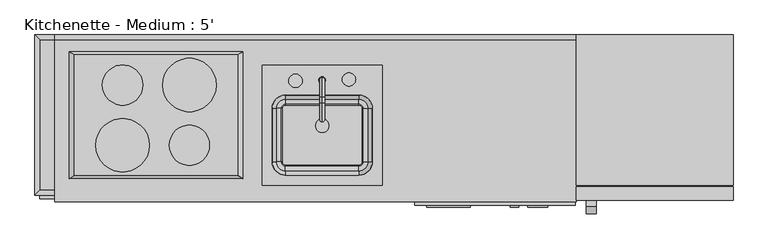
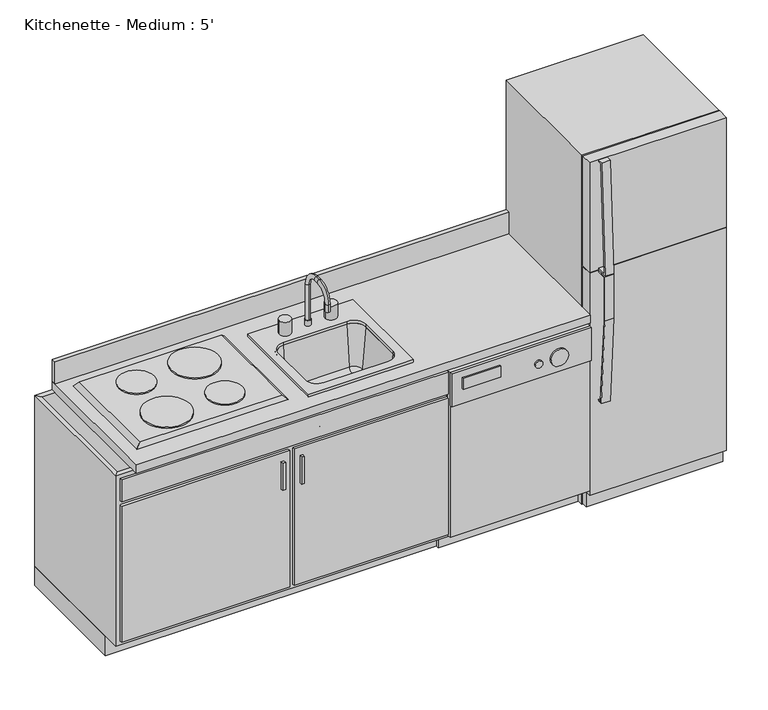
"""IFC4 building model written with IfcOpenShell, lengths in millimetres: proxy geometry, Kitchenette - Medium : 5'."""

import ifcopenshell
import ifcopenshell.guid

model = None  # the IFC model being written
_history = None  # IfcOwnerHistory: only IFC2X3 demands one
_inside = {}  # id of a spatial element -> (the spatial element, [elements in it])
_under = {}  # id of a project, library or spatial element -> (it, [spatial elements below it])
_declared = {}  # id of a project -> (the project, [libraries it declares])
_typed = {}  # id of a type object -> (the type object, [elements of that type])
_made_of = {}  # id of a material, layer set ... -> (it, [elements and type objects made of it])


def new_model(schema):
    """Start an empty IFC model of exactly this schema.

    Asked for "IFC4X3", IfcOpenShell would pick the latest addendum, in which some entities
    have other attributes; the version numbers below select the first issue.
    IFC2X3 requires an IfcOwnerHistory on every rooted entity: one is made here for all.
    """
    global model, _history
    if schema == "IFC4X3":
        model = ifcopenshell.file(schema_version=(4, 3, 0, 0))
    else:
        model = ifcopenshell.file(schema=schema)
    _inside.clear()
    _under.clear()
    _declared.clear()
    _typed.clear()
    _made_of.clear()
    _history = None
    if model.schema == "IFC2X3":
        org = make("IfcOrganization", Name="unknown")
        user = make(
            "IfcPersonAndOrganization",
            ThePerson=make("IfcPerson", FamilyName="unknown"),
            TheOrganization=org,
        )
        app = make(
            "IfcApplication",
            ApplicationDeveloper=org,
            Version="unknown",
            ApplicationFullName="unknown",
            ApplicationIdentifier="unknown",
        )
        _history = make(
            "IfcOwnerHistory",
            OwningUser=user,
            OwningApplication=app,
            ChangeAction="ADDED",
            CreationDate=0,
        )
    return model


def make(cls, **values):
    """One entity of the class cls with the attributes given. An attribute that is None is left unset."""
    return model.create_entity(
        cls, **{name: value for name, value in values.items() if value is not None}
    )


def rooted(cls, **values):
    """An entity with a GlobalId (a new one), such as an element, a storey or a relation."""
    return make(cls, GlobalId=ifcopenshell.guid.new(), OwnerHistory=_history, **values)


def si_unit(unit_type, name, prefix=None):
    """IfcSIUnit, for example si_unit("LENGTHUNIT", "METRE", prefix="MILLI")."""
    return make("IfcSIUnit", UnitType=unit_type, Prefix=prefix, Name=name)


def assignment(units):
    """IfcUnitAssignment: the units of a project."""
    return None if units is None else make("IfcUnitAssignment", Units=units)


def point(xyz):
    """IfcCartesianPoint."""
    return None if xyz is None else make("IfcCartesianPoint", Coordinates=xyz)


def direction(xyz):
    """IfcDirection."""
    return None if xyz is None else make("IfcDirection", DirectionRatios=xyz)


def frame(location, z_axis=None, x_axis=None):
    """IfcAxis2Placement3D, a coordinate frame: its origin and axes. An axis left out is left unset."""
    return make(
        "IfcAxis2Placement3D",
        Location=point(location),
        Axis=direction(z_axis),
        RefDirection=direction(x_axis),
    )


def frame_2d(location, x_axis=None):
    """IfcAxis2Placement2D, a coordinate frame in the plane: its origin and x axis."""
    return make(
        "IfcAxis2Placement2D", Location=point(location), RefDirection=direction(x_axis)
    )


def origin():
    """The frame at (0, 0, 0) with its axes left unset."""
    return frame((0.0, 0.0, 0.0))


def origin_with_axes():
    """The frame at (0, 0, 0) with the z axis (0, 0, 1) and the x axis (1, 0, 0) written out."""
    return frame((0.0, 0.0, 0.0), z_axis=(0.0, 0.0, 1.0), x_axis=(1.0, 0.0, 0.0))


def place(relative_to, where):
    """IfcLocalPlacement: puts the frame where relative to a parent placement (None: the world)."""
    return make(
        "IfcLocalPlacement", PlacementRelTo=relative_to, RelativePlacement=where
    )


def context(
    kind, dimensions, precision=None, world=None, true_north=None, identifier=None
):
    """IfcGeometricRepresentationContext, for example the 3D "Model" context."""
    return make(
        "IfcGeometricRepresentationContext",
        ContextIdentifier=identifier,
        ContextType=kind,
        CoordinateSpaceDimension=dimensions,
        Precision=precision,
        WorldCoordinateSystem=world,
        TrueNorth=true_north,
    )


def project(units=None, contexts=None):
    """IfcProject with its units and contexts."""
    return rooted(
        "IfcProject",
        Name="project",
        RepresentationContexts=contexts,
        UnitsInContext=assignment(units),
    )


def spatial(cls, under=None, at=None, **own):
    """A site, building, storey or space (cls), placed at a placement, below another one or the project."""
    s = rooted(cls, ObjectPlacement=at, **own)
    if under is not None:
        _under.setdefault(under.id(), (under, []))[1].append(s)
    return s


def polyline(points):
    """IfcPolyline through the points."""
    return make("IfcPolyline", Points=[point(p) for p in points])


def circle_curve(where, radius):
    """IfcCircle in the frame where."""
    return make("IfcCircle", Position=where, Radius=radius)


def ellipse_curve(where, semi_axis1, semi_axis2):
    """IfcEllipse in the frame where."""
    return make(
        "IfcEllipse", Position=where, SemiAxis1=semi_axis1, SemiAxis2=semi_axis2
    )


def trimmed(basis, trim1, trim2, sense, master):
    """IfcTrimmedCurve: the piece of a basis curve between two trims."""
    return make(
        "IfcTrimmedCurve",
        BasisCurve=basis,
        Trim1=trim1,
        Trim2=trim2,
        SenseAgreement=sense,
        MasterRepresentation=master,
    )


def segment(curve, same_sense, transition):
    """IfcCompositeCurveSegment."""
    return make(
        "IfcCompositeCurveSegment",
        Transition=transition,
        SameSense=same_sense,
        ParentCurve=curve,
    )


def composite_curve(segments, self_intersect=None):
    """IfcCompositeCurve: segments joined end to end."""
    return make("IfcCompositeCurve", Segments=segments, SelfIntersect=self_intersect)


def outline(outer, holes=None, kind="AREA"):
    """IfcArbitraryClosedProfileDef: a profile drawn as a closed curve; with holes, ...WithVoids."""
    if holes is None:
        return make("IfcArbitraryClosedProfileDef", ProfileType=kind, OuterCurve=outer)
    return make(
        "IfcArbitraryProfileDefWithVoids",
        ProfileType=kind,
        OuterCurve=outer,
        InnerCurves=holes,
    )


def extrude(swept, where, along, depth):
    """IfcExtrudedAreaSolid: the profile swept, set in the frame where, extruded along a direction by depth."""
    return make(
        "IfcExtrudedAreaSolid",
        SweptArea=swept,
        Position=where,
        ExtrudedDirection=direction(along),
        Depth=depth,
    )


def faces_of(points, faces, orient=None, outer=None):
    """IfcFace entities. A face is a list of loops; a loop is a list of indices into points, from 0.

    orient and outer hold one flag for each loop. By default every Orientation is true, the
    first loop of a face is its IfcFaceOuterBound and the others are IfcFaceBound.
    """
    made = []
    for i, loops in enumerate(faces):
        bounds = []
        for j, loop in enumerate(loops):
            is_outer = j == 0 if outer is None else outer[i][j]
            bounds.append(
                make(
                    "IfcFaceOuterBound" if is_outer else "IfcFaceBound",
                    Bound=make("IfcPolyLoop", Polygon=[points[k] for k in loop]),
                    Orientation=True if orient is None else orient[i][j],
                )
            )
        made.append(make("IfcFace", Bounds=bounds))
    return made


def faceted_brep(points, faces, orient=None, outer=None, voids=None):
    """IfcFacetedBrep: a solid bounded by flat faces; with voids (closed shells), ...WithVoids."""
    shared = [point(p) for p in points]
    hull = make("IfcClosedShell", CfsFaces=faces_of(shared, faces, orient, outer))
    if voids is None:
        return make("IfcFacetedBrep", Outer=hull)
    return make(
        "IfcFacetedBrepWithVoids",
        Outer=hull,
        Voids=[
            make(cls, CfsFaces=faces_of(shared, fs, o, b)) for cls, fs, o, b in voids
        ],
    )


def shape(context_of_items, identifier, shape_type, items):
    """IfcShapeRepresentation: the items that make up one representation, for example the "Body"."""
    return make(
        "IfcShapeRepresentation",
        ContextOfItems=context_of_items,
        RepresentationIdentifier=identifier,
        RepresentationType=shape_type,
        Items=items,
    )


def source(mapping_origin, context_of_items, identifier, shape_type, items):
    """IfcRepresentationMap: a shape defined once, which mapped items show again and again."""
    return make(
        "IfcRepresentationMap",
        MappingOrigin=mapping_origin,
        MappedRepresentation=shape(context_of_items, identifier, shape_type, items),
    )


def transform(
    local_origin,
    x_axis=None,
    y_axis=None,
    z_axis=None,
    scale=None,
    scale2=None,
    scale3=None,
    uniform=True,
):
    """IfcCartesianTransformationOperator3D, or its non-uniform kind. x_axis, y_axis, z_axis: its Axis1, 2, 3."""
    if uniform:
        return make(
            "IfcCartesianTransformationOperator3D",
            Axis1=direction(x_axis),
            Axis2=direction(y_axis),
            LocalOrigin=point(local_origin),
            Scale=scale,
            Axis3=direction(z_axis),
        )
    return make(
        "IfcCartesianTransformationOperator3DnonUniform",
        Axis1=direction(x_axis),
        Axis2=direction(y_axis),
        LocalOrigin=point(local_origin),
        Scale=scale,
        Axis3=direction(z_axis),
        Scale2=scale2,
        Scale3=scale3,
    )


def mapped(mapping_source, mapping_target):
    """IfcMappedItem: shows the shape of a source again, moved by a transform."""
    return make(
        "IfcMappedItem", MappingSource=mapping_source, MappingTarget=mapping_target
    )


def made_of(thing, what):
    """Note that an element or type object is made of a material, layer set ...; save() writes the relation."""
    if what is not None:
        _made_of.setdefault(what.id(), (what, []))[1].append(thing)
    return thing


def element(
    cls,
    number,
    at=None,
    inside=None,
    cuts=None,
    type_object=None,
    material=None,
    context=None,
    identifier="Body",
    shape_type=None,
    held_by="IfcProductDefinitionShape",
    body=None,
    shapes=None,
    **own,
):
    """One element of the class cls, such as IfcWall. Its Tag is "e" and its number.

    at: its placement. inside: the storey or other place that contains it. cuts: it is an
    opening in that element (IfcRelVoidsElement). A single representation is given by context,
    identifier, shape_type and body (its items); several are given by shapes. held_by: the class
    of the entity that holds the representations. save() writes the other relations.
    """
    e = rooted(cls, Tag="e%d" % number, ObjectPlacement=at, **own)
    if body is not None:
        shapes = [shape(context, identifier, shape_type, body)]
    if shapes is not None:
        e.Representation = make(held_by, Representations=shapes)
    if inside is not None:
        _inside.setdefault(inside.id(), (inside, []))[1].append(e)
    if cuts is not None:
        rooted(
            "IfcRelVoidsElement", RelatingBuildingElement=cuts, RelatedOpeningElement=e
        )
    if type_object is not None:
        _typed.setdefault(type_object.id(), (type_object, []))[1].append(e)
    return made_of(e, material)


def aggregate(whole, parts):
    """IfcRelAggregates: a whole, such as a stair, and the parts it consists of."""
    return rooted("IfcRelAggregates", RelatingObject=whole, RelatedObjects=parts)


def save(model, path):
    """Write the relations noted so far, then the file.

    IfcRelAggregates (storeys below a building ...), IfcRelContainedInSpatialStructure (elements
    in a storey), IfcRelDefinesByType, IfcRelAssociatesMaterial and IfcRelDeclares: one each for
    every whole, place, type object, material and project.
    """
    for whole, parts in _under.values():
        aggregate(whole, parts)
    for where, things in _inside.values():
        rooted(
            "IfcRelContainedInSpatialStructure",
            RelatedElements=things,
            RelatingStructure=where,
        )
    for kind, things in _typed.values():
        rooted("IfcRelDefinesByType", RelatedObjects=things, RelatingType=kind)
    for what, things in _made_of.values():
        rooted("IfcRelAssociatesMaterial", RelatedObjects=things, RelatingMaterial=what)
    for by, libraries in _declared.values():
        rooted("IfcRelDeclares", RelatingContext=by, RelatedDefinitions=libraries)
    model.write(path)


def plane_surface(at):
    """IfcPlane: the flat surface through the origin of the frame at, square to its z axis."""
    return make("IfcPlane", Position=at)


def cylinder_surface(at, radius):
    """IfcCylindricalSurface: all points at the distance radius from the z axis of the frame at."""
    return make("IfcCylindricalSurface", Position=at, Radius=radius)


def revolved_surface(curve, axis_point, axis_direction):
    """IfcSurfaceOfRevolution: the curve turned about the line through axis_point along axis_direction."""
    return make(
        "IfcSurfaceOfRevolution",
        SweptCurve=make("IfcArbitraryOpenProfileDef", ProfileType="CURVE", Curve=curve),
        AxisPosition=make("IfcAxis1Placement", Location=point(axis_point), Axis=direction(axis_direction)),
    )


def advanced_brep(points, edges, surfaces, faces):
    """IfcAdvancedBrep: a solid bounded by faces that lie on surfaces and meet in shared edges.

    An edge is (start, end): straight between two places in points (the first is 0);
    or (start, end, curve); or (start, end, curve, False) where it runs against its curve.
    A face is (place in surfaces, loops), or (place, loops, False) where it looks against
    its surface's normal. A loop lists edges by number (the first is 1), with a minus sign
    where the edge is run from its end to its start. The first loop is the outer one.
    """
    corners = [point(p) for p in points]
    vertices = [make("IfcVertexPoint", VertexGeometry=c) for c in corners]
    made = []
    for start, end, *more in edges:
        made.append(
            make(
                "IfcEdgeCurve",
                EdgeStart=vertices[start],
                EdgeEnd=vertices[end],
                EdgeGeometry=more[0] if more else make("IfcPolyline", Points=[corners[start], corners[end]]),
                SameSense=more[1] if len(more) > 1 else True,
            )
        )
    hull = []
    for where, loops, *sense in faces:
        bounds = []
        for j, loop in enumerate(loops):
            ring = [make("IfcOrientedEdge", EdgeElement=made[abs(k) - 1], Orientation=k > 0) for k in loop]
            bounds.append(
                make(
                    "IfcFaceOuterBound" if j == 0 else "IfcFaceBound",
                    Bound=make("IfcEdgeLoop", EdgeList=ring),
                    Orientation=True,
                )
            )
        hull.append(make("IfcAdvancedFace", Bounds=bounds, FaceSurface=surfaces[where], SameSense=sense[0] if sense else True))
    return make("IfcAdvancedBrep", Outer=make("IfcClosedShell", CfsFaces=hull))


def kitchenette_medium_5_9f73a4de(model_context):
    return source(origin(), model_context, "Body", "SolidModel", [
        extrude(outline(polyline([(911.8307496, -655.8359375), (746.7307496, -655.8359375), (746.7307496, -647.7), (911.8307496, -647.7), (911.8307496, -655.8359375)])), frame((0.0, 0.0, 780.0846419), z_axis=(0.0, 0.0, 1.0), x_axis=(1.0, 0.0, 0.0)), (0.0, 0.0, 1.0), 50.8),
        extrude(outline(composite_curve([segment(trimmed(circle_curve(frame_2d((780.0846419, 1168.9176561)), 38.1), [point((780.0846419, 1130.8176561))], [point((780.0846419, 1207.0176561))], False, "CARTESIAN"), True, "CONTINUOUS"), segment(trimmed(circle_curve(frame_2d((780.0846419, 1168.9176561)), 38.1), [point((780.0846419, 1207.0176561))], [point((780.0846419, 1130.8176561))], False, "CARTESIAN"), True, "CONTINUOUS")], self_intersect=False)), frame((0.0, -655.8359375, 0.0), z_axis=(0.0, 1.0, 0.0), x_axis=(0.0, 0.0, 1.0)), (0.0, 0.0, 1.0), 8.1359375),
        extrude(outline(composite_curve([segment(trimmed(circle_curve(frame_2d((780.0846419, 1079.3882607)), 15.875), [point((780.0846419, 1063.5132607))], [point((780.0846419, 1095.2632607))], False, "CARTESIAN"), True, "CONTINUOUS"), segment(trimmed(circle_curve(frame_2d((780.0846419, 1079.3882607)), 15.875), [point((780.0846419, 1095.2632607))], [point((780.0846419, 1063.5132607))], False, "CARTESIAN"), True, "CONTINUOUS")], self_intersect=False)), frame((0.0, -655.8359375, 0.0), z_axis=(0.0, 1.0, 0.0), x_axis=(0.0, 0.0, 1.0)), (0.0, 0.0, 1.0), 8.1359375),
        extrude(outline(polyline([(-25.4, 0.0), (-546.1, 0.0), (-546.1, 101.6), (-609.6, 101.6), (-609.6, 863.6), (-25.4, 863.6), (-25.4, 0.0)])), frame((701.7104113, 0.0, 0.0), z_axis=(1.0, 0.0, 0.0), x_axis=(0.0, 1.0, 0.0)), (0.0, 0.0, 1.0), 609.6),
        extrude(outline(polyline([(1311.3104113, -635.0), (1311.3104113, -647.7), (701.7104113, -647.7), (701.7104113, -635.0), (1311.3104113, -635.0)])), frame((0.0, 0.0, 711.2), z_axis=(0.0, 0.0, 1.0), x_axis=(1.0, 0.0, 0.0)), (0.0, 0.0, 1.0), 152.4),
        extrude(outline(polyline([(1311.3104113, -635.0), (701.7104113, -635.0), (701.7104113, -619.125), (1311.3104113, -619.125), (1311.3104113, -635.0)])), frame((0.0, 0.0, 101.6), z_axis=(0.0, 0.0, 1.0), x_axis=(1.0, 0.0, 0.0)), (0.0, 0.0, 1.0), 762.0),
        extrude(outline(polyline([(1911.0377049, 0.0), (1911.0377049, -571.5), (1314.1377049, -571.5), (1314.1377049, 0.0), (1911.0377049, 0.0)])), origin_with_axes(), (0.0, 0.0, 1.0), 1612.9),
        extrude(outline(polyline([(1911.0377049, -577.85), (1911.0377049, -628.65), (1314.1377049, -628.65), (1314.1377049, -577.85), (1911.0377049, -577.85)])), frame((0.0, 0.0, 1106.4875), z_axis=(0.0, 0.0, 1.0), x_axis=(1.0, 0.0, 0.0)), (0.0, 0.0, 1.0), 506.4125),
        extrude(outline(polyline([(1911.0377049, -577.85), (1911.0377049, -628.65), (1314.1377049, -628.65), (1314.1377049, -577.85), (1911.0377049, -577.85)])), frame((0.0, 0.0, 76.2), z_axis=(0.0, 0.0, 1.0), x_axis=(1.0, 0.0, 0.0)), (0.0, 0.0, 1.0), 1027.1125),
        extrude(outline(polyline([(1911.0377049, -577.85), (1911.0377049, -603.25), (1314.1377049, -603.25), (1314.1377049, -577.85), (1911.0377049, -577.85)])), frame((0.0, 0.0, 9.3816357), z_axis=(0.0, 0.0, 1.0), x_axis=(1.0, 0.0, 0.0)), (0.0, 0.0, 1.0), 63.5),
        extrude(outline(polyline([(-653.4883845, 1612.9), (-629.427057, 1612.9), (-629.427057, 1606.55), (-648.2753164, 1606.55), (-674.1496921, 1112.8375), (-629.427057, 1112.8375), (-629.427057, 1106.4875), (-680.028339, 1106.4875), (-653.4883845, 1612.9)])), frame((1352.2377049, 0.0, 0.0), z_axis=(1.0, 0.0, 0.0), x_axis=(0.0, 1.0, 0.0)), (0.0, 0.0, 1.0), 38.4332978),
        extrude(outline(polyline([(-628.65, 1096.9625), (-673.1, 1096.9625), (-673.1, 900.3342469), (-645.6213702, 507.3715334), (-628.65, 507.3715334), (-628.65, 501.0370017), (-651.5439227, 501.0370017), (-679.45, 900.1125), (-679.45, 1103.3125), (-628.65, 1103.3125), (-628.65, 1096.9625)])), frame((1352.2377049, 0.0, 0.0), z_axis=(1.0, 0.0, 0.0), x_axis=(0.0, 1.0, 0.0)), (0.0, 0.0, 1.0), 38.4332978),
        extrude(outline(composite_curve([segment(trimmed(circle_curve(frame_2d((-409.8872951, -419.1)), 101.6), [point((-308.2872951, -419.1))], [point((-511.4872951, -419.1))], False, "CARTESIAN"), True, "CONTINUOUS"), segment(trimmed(circle_curve(frame_2d((-409.8872951, -419.1)), 101.6), [point((-511.4872951, -419.1))], [point((-308.2872951, -419.1))], False, "CARTESIAN"), True, "CONTINUOUS")], self_intersect=False)), frame((0.0, 0.0, 933.45), z_axis=(0.0, 0.0, 1.0), x_axis=(1.0, 0.0, 0.0)), (0.0, 0.0, 1.0), 6.35),
        faceted_brep([(28.2627049, -76.2, 933.45), (-594.0372951, -76.2, 933.45), (-594.0372951, -533.4, 933.45), (28.2627049, -533.4, 933.45), (47.3127049, -63.5, 914.4), (47.3127049, -546.1, 914.4), (-613.0872951, -546.1, 914.4), (-613.0872951, -63.5, 914.4)], [[[0, 1, 2, 3]], [[4, 5, 6, 7]], [[4, 7, 1, 0]], [[7, 6, 2, 1]], [[6, 5, 3, 2]], [[5, 4, 0, 3]]]),
        extrude(outline(composite_curve([segment(trimmed(circle_curve(frame_2d((-409.8872951, -190.5)), 76.5869489), [point((-333.3003462, -190.5))], [point((-486.474244, -190.5))], False, "CARTESIAN"), True, "CONTINUOUS"), segment(trimmed(circle_curve(frame_2d((-409.8872951, -190.5)), 76.5869489), [point((-486.474244, -190.5))], [point((-333.3003462, -190.5))], False, "CARTESIAN"), True, "CONTINUOUS")], self_intersect=False)), frame((0.0, 0.0, 933.45), z_axis=(0.0, 0.0, 1.0), x_axis=(1.0, 0.0, 0.0)), (0.0, 0.0, 1.0), 6.35),
        extrude(outline(composite_curve([segment(trimmed(circle_curve(frame_2d((-155.8872951, -190.5)), 101.6), [point((-54.2872951, -190.5))], [point((-257.4872951, -190.5))], False, "CARTESIAN"), True, "CONTINUOUS"), segment(trimmed(circle_curve(frame_2d((-155.8872951, -190.5)), 101.6), [point((-257.4872951, -190.5))], [point((-54.2872951, -190.5))], False, "CARTESIAN"), True, "CONTINUOUS")], self_intersect=False)), frame((0.0, 0.0, 933.45), z_axis=(0.0, 0.0, 1.0), x_axis=(1.0, 0.0, 0.0)), (0.0, 0.0, 1.0), 6.35),
        extrude(outline(composite_curve([segment(trimmed(circle_curve(frame_2d((-155.8872951, -419.1)), 76.2), [point((-79.6872951, -419.1))], [point((-232.0872951, -419.1))], False, "CARTESIAN"), True, "CONTINUOUS"), segment(trimmed(circle_curve(frame_2d((-155.8872951, -419.1)), 76.2), [point((-232.0872951, -419.1))], [point((-79.6872951, -419.1))], False, "CARTESIAN"), True, "CONTINUOUS")], self_intersect=False)), frame((0.0, 0.0, 933.45), z_axis=(0.0, 0.0, 1.0), x_axis=(1.0, 0.0, 0.0)), (0.0, 0.0, 1.0), 6.35),
        extrude(outline(polyline([(577.5377049, -114.3), (577.5377049, -571.5), (120.3377049, -571.5), (120.3377049, -114.3), (577.5377049, -114.3)]), holes=[composite_curve([segment(polyline([(488.6377049, -228.6), (209.2377049, -228.6)]), True, "CONTINUOUS"), segment(trimmed(circle_curve(frame_2d((209.2377049, -279.4)), 50.8), [point((209.2377049, -228.6))], [point((158.4377049, -279.4))], True, "CARTESIAN"), True, "CONTINUOUS"), segment(polyline([(158.4377049, -279.4), (158.4377049, -482.6)]), True, "CONTINUOUS"), segment(trimmed(circle_curve(frame_2d((209.2377049, -482.6)), 50.8), [point((158.4377049, -482.6))], [point((209.2377049, -533.4))], True, "CARTESIAN"), True, "CONTINUOUS"), segment(polyline([(209.2377049, -533.4), (488.6377049, -533.4)]), True, "CONTINUOUS"), segment(trimmed(circle_curve(frame_2d((488.6377049, -482.6)), 50.8), [point((488.6377049, -533.4))], [point((539.4377049, -482.6))], True, "CARTESIAN"), True, "CONTINUOUS"), segment(polyline([(539.4377049, -482.6), (539.4377049, -279.4)]), True, "CONTINUOUS"), segment(trimmed(circle_curve(frame_2d((488.6377049, -279.4)), 50.8), [point((539.4377049, -279.4))], [point((488.6377049, -228.6))], True, "CARTESIAN"), True, "CONTINUOUS")], self_intersect=False)]), frame((0.0, 0.0, 914.4), z_axis=(0.0, 0.0, 1.0), x_axis=(1.0, 0.0, 0.0)), (0.0, 0.0, 1.0), 12.7),
        advanced_brep(
        [(545.7877049, -279.4, 698.5), (488.6377049, -222.25, 698.5), (488.6377049, -222.25, 914.4), (545.7877049, -279.4, 914.4), (501.3377049, -279.4, 698.5), (488.6377049, -266.7, 698.5), (501.3377049, -279.4, 708.025), (488.6377049, -266.7, 708.025), (503.9261231, -279.4, 708.025), (488.6377049, -264.1115818, 708.025), (522.9036321, -279.4, 725.4146831), (488.6377049, -245.1340728, 725.4146831), (539.4377049, -279.4, 914.4), (488.6377049, -228.6, 914.4), (545.7877049, -482.6, 914.4), (545.7877049, -482.6, 698.5), (501.3377049, -482.6, 698.5), (501.3377049, -482.6, 708.025), (503.9261231, -482.6, 708.025), (522.9036321, -482.6, 725.4146831), (539.4377049, -482.6, 914.4), (488.6377049, -539.75, 698.5), (488.6377049, -539.75, 914.4), (488.6377049, -495.3, 698.5), (488.6377049, -495.3, 708.025), (488.6377049, -497.8884182, 708.025), (488.6377049, -516.8659272, 725.4146831), (488.6377049, -533.4, 914.4), (209.2377049, -539.75, 914.4), (209.2377049, -539.75, 698.5), (209.2377049, -495.3, 698.5), (209.2377049, -495.3, 708.025), (209.2377049, -497.8884182, 708.025), (209.2377049, -516.8659272, 725.4146831), (209.2377049, -533.4, 914.4), (152.0877049, -482.6, 698.5), (152.0877049, -482.6, 914.4), (196.5377049, -482.6, 698.5), (196.5377049, -482.6, 708.025), (193.9492867, -482.6, 708.025), (174.9717777, -482.6, 725.4146831), (158.4377049, -482.6, 914.4), (152.0877049, -279.4, 914.4), (152.0877049, -279.4, 698.5), (196.5377049, -279.4, 698.5), (196.5377049, -279.4, 708.025), (193.9492867, -279.4, 708.025), (174.9717777, -279.4, 725.4146831), (158.4377049, -279.4, 914.4), (209.2377049, -222.25, 698.5), (209.2377049, -222.25, 914.4), (209.2377049, -266.7, 698.5), (209.2377049, -266.7, 708.025), (209.2377049, -264.1115818, 708.025), (209.2377049, -245.1340728, 725.4146831), (209.2377049, -228.6, 914.4)],
        [
            (0, 1, circle_curve(frame((488.6377049, -279.4, 698.5), z_axis=(0.0, 0.0, 1.0), x_axis=(0.0, 1.0, 0.0)), 57.15)),
            (1, 2),
            (2, 3, circle_curve(frame((488.6377049, -279.4, 914.4), z_axis=(0.0, 0.0, -1.0), x_axis=(0.0, 1.0, 0.0)), 57.15)),
            (3, 0),
            (4, 5, circle_curve(frame((488.6377049, -279.4, 698.5), z_axis=(0.0, 0.0, 1.0), x_axis=(0.0, 1.0, 0.0)), 12.7)),
            (5, 1),
            (0, 4),
            (6, 7, circle_curve(frame((488.6377049, -279.4, 708.025), z_axis=(0.0, 0.0, 1.0), x_axis=(0.0, 1.0, 0.0)), 12.7)),
            (7, 5),
            (4, 6),
            (8, 9, circle_curve(frame((488.6377049, -279.4, 708.025), z_axis=(0.0, 0.0, 1.0), x_axis=(0.0, 1.0, 0.0)), 15.2884182)),
            (9, 7),
            (6, 8),
            (10, 11, circle_curve(frame((488.6377049, -279.4, 725.4146831), z_axis=(0.0, 0.0, 1.0), x_axis=(0.0, 1.0, 0.0)), 34.2659272)),
            (11, 9, circle_curve(frame((488.6377049, -264.1115818, 727.075), z_axis=(-1.0, 0.0, 0.0), x_axis=(0.0, 1.0, 0.0)), 19.05)),
            (8, 10, circle_curve(frame((503.9261231, -279.4, 727.075), z_axis=(0.0, -1.0, 0.0), x_axis=(1.0, 0.0, 0.0)), 19.05)),
            (12, 13, circle_curve(frame((488.6377049, -279.4, 914.4), z_axis=(0.0, 0.0, 1.0), x_axis=(0.0, 1.0, 0.0)), 50.8)),
            (13, 11),
            (10, 12),
            (2, 13),
            (12, 3),
            (3, 14),
            (14, 15),
            (15, 0),
            (15, 16),
            (16, 4),
            (16, 17),
            (17, 6),
            (17, 18),
            (18, 8),
            (18, 19, circle_curve(frame((503.9261231, -482.6, 727.075), z_axis=(0.0, -1.0, 0.0), x_axis=(1.0, 0.0, 0.0)), 19.05)),
            (19, 10),
            (19, 20),
            (20, 12),
            (20, 14),
            (21, 15, circle_curve(frame((488.6377049, -482.6, 698.5), z_axis=(0.0, 0.0, 1.0), x_axis=(1.0, 0.0, 0.0)), 57.15)),
            (14, 22, circle_curve(frame((488.6377049, -482.6, 914.4), z_axis=(0.0, 0.0, -1.0), x_axis=(1.0, 0.0, 0.0)), 57.15)),
            (22, 21),
            (23, 16, circle_curve(frame((488.6377049, -482.6, 698.5), z_axis=(0.0, 0.0, 1.0), x_axis=(1.0, 0.0, 0.0)), 12.7)),
            (21, 23),
            (24, 17, circle_curve(frame((488.6377049, -482.6, 708.025), z_axis=(0.0, 0.0, 1.0), x_axis=(1.0, 0.0, 0.0)), 12.7)),
            (23, 24),
            (25, 18, circle_curve(frame((488.6377049, -482.6, 708.025), z_axis=(0.0, 0.0, 1.0), x_axis=(1.0, 0.0, 0.0)), 15.2884182)),
            (24, 25),
            (26, 19, circle_curve(frame((488.6377049, -482.6, 725.4146831), z_axis=(0.0, 0.0, 1.0), x_axis=(1.0, 0.0, 0.0)), 34.2659272)),
            (25, 26, circle_curve(frame((488.6377049, -497.8884182, 727.075), z_axis=(-1.0, 0.0, 0.0), x_axis=(0.0, -1.0, 0.0)), 19.05)),
            (27, 20, circle_curve(frame((488.6377049, -482.6, 914.4), z_axis=(0.0, 0.0, 1.0), x_axis=(1.0, 0.0, 0.0)), 50.8)),
            (26, 27),
            (27, 22),
            (22, 28),
            (28, 29),
            (29, 21),
            (29, 30),
            (30, 23),
            (30, 31),
            (31, 24),
            (31, 32),
            (32, 25),
            (32, 33, circle_curve(frame((209.2377049, -497.8884182, 727.075), z_axis=(-1.0, 0.0, 0.0), x_axis=(0.0, -1.0, 0.0)), 19.05)),
            (33, 26),
            (33, 34),
            (34, 27),
            (34, 28),
            (35, 29, circle_curve(frame((209.2377049, -482.6, 698.5), z_axis=(0.0, 0.0, 1.0), x_axis=(0.0, -1.0, 0.0)), 57.15)),
            (28, 36, circle_curve(frame((209.2377049, -482.6, 914.4), z_axis=(0.0, 0.0, -1.0), x_axis=(0.0, -1.0, 0.0)), 57.15)),
            (36, 35),
            (37, 30, circle_curve(frame((209.2377049, -482.6, 698.5), z_axis=(0.0, 0.0, 1.0), x_axis=(0.0, -1.0, 0.0)), 12.7)),
            (35, 37),
            (38, 31, circle_curve(frame((209.2377049, -482.6, 708.025), z_axis=(0.0, 0.0, 1.0), x_axis=(0.0, -1.0, 0.0)), 12.7)),
            (37, 38),
            (39, 32, circle_curve(frame((209.2377049, -482.6, 708.025), z_axis=(0.0, 0.0, 1.0), x_axis=(0.0, -1.0, 0.0)), 15.2884182)),
            (38, 39),
            (40, 33, circle_curve(frame((209.2377049, -482.6, 725.4146831), z_axis=(0.0, 0.0, 1.0), x_axis=(0.0, -1.0, 0.0)), 34.2659272)),
            (39, 40, circle_curve(frame((193.9492867, -482.6, 727.075), z_axis=(0.0, 1.0, 0.0), x_axis=(-1.0, 0.0, 0.0)), 19.05)),
            (41, 34, circle_curve(frame((209.2377049, -482.6, 914.4), z_axis=(0.0, 0.0, 1.0), x_axis=(0.0, -1.0, 0.0)), 50.8)),
            (40, 41),
            (41, 36),
            (36, 42),
            (42, 43),
            (43, 35),
            (43, 44),
            (44, 37),
            (44, 45),
            (45, 38),
            (45, 46),
            (46, 39),
            (46, 47, circle_curve(frame((193.9492867, -279.4, 727.075), z_axis=(0.0, 1.0, 0.0), x_axis=(-1.0, 0.0, 0.0)), 19.05)),
            (47, 40),
            (47, 48),
            (48, 41),
            (48, 42),
            (49, 43, circle_curve(frame((209.2377049, -279.4, 698.5), z_axis=(0.0, 0.0, 1.0), x_axis=(-1.0, 0.0, 0.0)), 57.15)),
            (42, 50, circle_curve(frame((209.2377049, -279.4, 914.4), z_axis=(0.0, 0.0, -1.0), x_axis=(-1.0, 0.0, 0.0)), 57.15)),
            (50, 49),
            (51, 44, circle_curve(frame((209.2377049, -279.4, 698.5), z_axis=(0.0, 0.0, 1.0), x_axis=(-1.0, 0.0, 0.0)), 12.7)),
            (49, 51),
            (52, 45, circle_curve(frame((209.2377049, -279.4, 708.025), z_axis=(0.0, 0.0, 1.0), x_axis=(-1.0, 0.0, 0.0)), 12.7)),
            (51, 52),
            (53, 46, circle_curve(frame((209.2377049, -279.4, 708.025), z_axis=(0.0, 0.0, 1.0), x_axis=(-1.0, 0.0, 0.0)), 15.2884182)),
            (52, 53),
            (54, 47, circle_curve(frame((209.2377049, -279.4, 725.4146831), z_axis=(0.0, 0.0, 1.0), x_axis=(-1.0, 0.0, 0.0)), 34.2659272)),
            (53, 54, circle_curve(frame((209.2377049, -264.1115818, 727.075), z_axis=(1.0, 0.0, 0.0), x_axis=(0.0, 1.0, 0.0)), 19.05)),
            (55, 48, circle_curve(frame((209.2377049, -279.4, 914.4), z_axis=(0.0, 0.0, 1.0), x_axis=(-1.0, 0.0, 0.0)), 50.8)),
            (54, 55),
            (55, 50),
            (50, 2),
            (1, 49),
            (5, 51),
            (7, 52),
            (9, 53),
            (11, 54),
            (13, 55),
        ],
        [
            cylinder_surface(frame((488.6377049, -279.4, 0.0), z_axis=(0.0, 0.0, -1.0), x_axis=(0.0, 1.0, 0.0)), 57.15),
            plane_surface(frame((488.6377049, -279.4, 698.5), z_axis=(0.0, 0.0, -1.0), x_axis=(0.0, 1.0, 0.0))),
            revolved_surface(polyline([(488.6377049, -266.7, 698.5), (488.6377049, -266.7, 708.025)]), (488.6377049, -279.4, 0.0), (0.0, 0.0, -1.0)),
            plane_surface(frame((488.6377049, -279.4, 708.025), z_axis=(0.0, 0.0, 1.0), x_axis=(0.0, 1.0, 0.0))),
            revolved_surface(trimmed(ellipse_curve(frame((488.6377049, -264.1115818, 727.075), z_axis=(1.0, 0.0, 0.0), x_axis=(0.0, 1.0, 0.0)), 19.05, 19.05), [point((488.6377049, -264.1115818, 708.025))], [point((488.6377049, -245.1340728, 725.4146831))], True, "CARTESIAN"), (488.6377049, -279.4, 0.0), (0.0, 0.0, -1.0)),
            revolved_surface(polyline([(488.6377049, -245.1340728, 725.4146831), (488.6377049, -228.6, 914.4)]), (488.6377049, -279.4, 0.0), (0.0, 0.0, -1.0)),
            plane_surface(frame((488.6377049, -279.4, 914.4), z_axis=(0.0, 0.0, 1.0), x_axis=(0.0, 1.0, 0.0))),
            plane_surface(frame((545.7877049, -279.4, 914.4), z_axis=(1.0, 0.0, 0.0), x_axis=(0.0, -1.0, 0.0))),
            plane_surface(frame((545.7877049, -279.4, 698.5), z_axis=(0.0, 0.0, -1.0), x_axis=(0.0, -1.0, 0.0))),
            plane_surface(frame((501.3377049, -279.4, 698.5), z_axis=(-1.0, 0.0, 0.0), x_axis=(0.0, -1.0, 0.0))),
            plane_surface(frame((501.3377049, -279.4, 708.025), z_axis=(0.0, 0.0, 1.0), x_axis=(0.0, -1.0, 0.0))),
            revolved_surface(polyline([(522.9761231, -482.6, 727.075), (522.9761231, -279.4, 727.075)]), (503.9261231, -279.4, 727.075), (0.0, -1.0, 0.0)),
            plane_surface(frame((522.9036321, -279.4, 725.4146831), z_axis=(-0.9961946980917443, 0.0, 0.08715574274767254), x_axis=(0.0, -1.0, 0.0))),
            plane_surface(frame((539.4377049, -279.4, 914.4), z_axis=(0.0, 0.0, 1.0), x_axis=(0.0, -1.0, 0.0))),
            cylinder_surface(frame((488.6377049, -482.6, 0.0), z_axis=(0.0, 0.0, -1.0), x_axis=(1.0, 0.0, 0.0)), 57.15),
            plane_surface(frame((488.6377049, -482.6, 698.5), z_axis=(0.0, 0.0, -1.0), x_axis=(1.0, 0.0, 0.0))),
            revolved_surface(polyline([(501.3377049, -482.6, 698.5), (501.3377049, -482.6, 708.025)]), (488.6377049, -482.6, 0.0), (0.0, 0.0, -1.0)),
            plane_surface(frame((488.6377049, -482.6, 708.025), z_axis=(0.0, 0.0, 1.0), x_axis=(1.0, 0.0, 0.0))),
            revolved_surface(trimmed(ellipse_curve(frame((503.9261231, -482.6, 727.075), z_axis=(0.0, -1.0, 0.0), x_axis=(1.0, 0.0, 0.0)), 19.05, 19.05), [point((503.9261231, -482.6, 708.025))], [point((522.9036321, -482.6, 725.4146831))], True, "CARTESIAN"), (488.6377049, -482.6, 0.0), (0.0, 0.0, -1.0)),
            revolved_surface(polyline([(522.9036321, -482.6, 725.4146831), (539.4377049, -482.6, 914.4)]), (488.6377049, -482.6, 0.0), (0.0, 0.0, -1.0)),
            plane_surface(frame((488.6377049, -482.6, 914.4), z_axis=(0.0, 0.0, 1.0), x_axis=(1.0, 0.0, 0.0))),
            plane_surface(frame((488.6377049, -539.75, 914.4), z_axis=(0.0, -1.0, 0.0), x_axis=(-1.0, 0.0, 0.0))),
            plane_surface(frame((488.6377049, -539.75, 698.5), z_axis=(0.0, 0.0, -1.0), x_axis=(-1.0, 0.0, 0.0))),
            plane_surface(frame((488.6377049, -495.3, 698.5), z_axis=(0.0, 1.0, 0.0), x_axis=(-1.0, 0.0, 0.0))),
            plane_surface(frame((488.6377049, -495.3, 708.025), z_axis=(0.0, 0.0, 1.0), x_axis=(-1.0, 0.0, 0.0))),
            revolved_surface(polyline([(209.23770490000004, -516.9384182, 727.075), (488.6377049, -516.9384182, 727.075)]), (488.6377049, -497.8884182, 727.075), (-1.0, 0.0, 0.0)),
            plane_surface(frame((488.6377049, -516.8659272, 725.4146831), z_axis=(0.0, 0.9961946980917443, 0.08715574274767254), x_axis=(-1.0, 0.0, 0.0))),
            plane_surface(frame((488.6377049, -533.4, 914.4), z_axis=(0.0, 0.0, 1.0), x_axis=(-1.0, 0.0, 0.0))),
            cylinder_surface(frame((209.2377049, -482.6, 0.0), z_axis=(0.0, 0.0, -1.0), x_axis=(0.0, -1.0, 0.0)), 57.15),
            plane_surface(frame((209.2377049, -482.6, 698.5), z_axis=(0.0, 0.0, -1.0), x_axis=(0.0, -1.0, 0.0))),
            revolved_surface(polyline([(209.2377049, -495.3, 698.5), (209.2377049, -495.3, 708.025)]), (209.2377049, -482.6, 0.0), (0.0, 0.0, -1.0)),
            plane_surface(frame((209.2377049, -482.6, 708.025), z_axis=(0.0, 0.0, 1.0), x_axis=(0.0, -1.0, 0.0))),
            revolved_surface(trimmed(ellipse_curve(frame((209.2377049, -497.8884182, 727.075), z_axis=(-1.0, 0.0, 0.0), x_axis=(0.0, -1.0, 0.0)), 19.05, 19.05), [point((209.2377049, -497.8884182, 708.025))], [point((209.2377049, -516.8659272, 725.4146831))], True, "CARTESIAN"), (209.2377049, -482.6, 0.0), (0.0, 0.0, -1.0)),
            revolved_surface(polyline([(209.2377049, -516.8659272, 725.4146831), (209.2377049, -533.4, 914.4)]), (209.2377049, -482.6, 0.0), (0.0, 0.0, -1.0)),
            plane_surface(frame((209.2377049, -482.6, 914.4), z_axis=(0.0, 0.0, 1.0), x_axis=(0.0, -1.0, 0.0))),
            plane_surface(frame((152.0877049, -482.6, 914.4), z_axis=(-1.0, 0.0, 0.0), x_axis=(0.0, 1.0, 0.0))),
            plane_surface(frame((152.0877049, -482.6, 698.5), z_axis=(0.0, 0.0, -1.0), x_axis=(0.0, 1.0, 0.0))),
            plane_surface(frame((196.5377049, -482.6, 698.5), z_axis=(1.0, 0.0, 0.0), x_axis=(0.0, 1.0, 0.0))),
            plane_surface(frame((196.5377049, -482.6, 708.025), z_axis=(0.0, 0.0, 1.0), x_axis=(0.0, 1.0, 0.0))),
            revolved_surface(polyline([(174.89928669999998, -279.4, 727.075), (174.89928669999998, -482.6, 727.075)]), (193.9492867, -482.6, 727.075), (0.0, 1.0, 0.0)),
            plane_surface(frame((174.9717777, -482.6, 725.4146831), z_axis=(0.9961946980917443, 0.0, 0.08715574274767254), x_axis=(0.0, 1.0, 0.0))),
            plane_surface(frame((158.4377049, -482.6, 914.4), z_axis=(0.0, 0.0, 1.0), x_axis=(0.0, 1.0, 0.0))),
            cylinder_surface(frame((209.2377049, -279.4, 0.0), z_axis=(0.0, 0.0, -1.0), x_axis=(-1.0, 0.0, 0.0)), 57.15),
            plane_surface(frame((209.2377049, -279.4, 698.5), z_axis=(0.0, 0.0, -1.0), x_axis=(-1.0, 0.0, 0.0))),
            revolved_surface(polyline([(196.53770490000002, -279.4, 698.5), (196.53770490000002, -279.4, 708.025)]), (209.2377049, -279.4, 0.0), (0.0, 0.0, -1.0)),
            plane_surface(frame((209.2377049, -279.4, 708.025), z_axis=(0.0, 0.0, 1.0), x_axis=(-1.0, 0.0, 0.0))),
            revolved_surface(trimmed(ellipse_curve(frame((193.9492867, -279.4, 727.075), z_axis=(0.0, 1.0, 0.0), x_axis=(-1.0, 0.0, 0.0)), 19.05, 19.05), [point((193.9492867, -279.4, 708.025))], [point((174.9717777, -279.4, 725.4146831))], True, "CARTESIAN"), (209.2377049, -279.4, 0.0), (0.0, 0.0, -1.0)),
            revolved_surface(polyline([(174.9717777, -279.4, 725.4146831), (158.4377049, -279.4, 914.4)]), (209.2377049, -279.4, 0.0), (0.0, 0.0, -1.0)),
            plane_surface(frame((209.2377049, -279.4, 914.4), z_axis=(0.0, 0.0, 1.0), x_axis=(-1.0, 0.0, 0.0))),
            plane_surface(frame((209.2377049, -222.25, 914.4), z_axis=(0.0, 1.0, 0.0), x_axis=(1.0, 0.0, 0.0))),
            plane_surface(frame((209.2377049, -222.25, 698.5), z_axis=(0.0, 0.0, -1.0), x_axis=(1.0, 0.0, 0.0))),
            plane_surface(frame((209.2377049, -266.7, 698.5), z_axis=(0.0, -1.0, 0.0), x_axis=(1.0, 0.0, 0.0))),
            plane_surface(frame((209.2377049, -266.7, 708.025), z_axis=(0.0, 0.0, 1.0), x_axis=(1.0, 0.0, 0.0))),
            revolved_surface(polyline([(488.6377049, -245.0615818, 727.075), (209.2377049, -245.0615818, 727.075)]), (209.2377049, -264.1115818, 727.075), (1.0, 0.0, 0.0)),
            plane_surface(frame((209.2377049, -245.1340728, 725.4146831), z_axis=(0.0, -0.9961946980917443, 0.08715574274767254), x_axis=(1.0, 0.0, 0.0))),
            plane_surface(frame((209.2377049, -228.6, 914.4), z_axis=(0.0, 0.0, 1.0), x_axis=(1.0, 0.0, 0.0))),
        ],
        [
            (0, [[1, 2, 3, 4]]),
            (1, [[5, 6, -1, 7]]),
            (2, [[8, 9, -5, 10]]),
            (3, [[11, 12, -8, 13]]),
            (4, [[14, 15, -11, 16]]),
            (5, [[17, 18, -14, 19]]),
            (6, [[-3, 20, -17, 21]]),
            (7, [[-4, 22, 23, 24]]),
            (8, [[-7, -24, 25, 26]]),
            (9, [[-10, -26, 27, 28]]),
            (10, [[-13, -28, 29, 30]]),
            (11, [[-16, -30, 31, 32]]),
            (12, [[-19, -32, 33, 34]]),
            (13, [[-21, -34, 35, -22]]),
            (14, [[36, -23, 37, 38]]),
            (15, [[39, -25, -36, 40]]),
            (16, [[41, -27, -39, 42]]),
            (17, [[43, -29, -41, 44]]),
            (18, [[45, -31, -43, 46]]),
            (19, [[47, -33, -45, 48]]),
            (20, [[-37, -35, -47, 49]]),
            (21, [[-38, 50, 51, 52]]),
            (22, [[-40, -52, 53, 54]]),
            (23, [[-42, -54, 55, 56]]),
            (24, [[-44, -56, 57, 58]]),
            (25, [[-46, -58, 59, 60]]),
            (26, [[-48, -60, 61, 62]]),
            (27, [[-49, -62, 63, -50]]),
            (28, [[64, -51, 65, 66]]),
            (29, [[67, -53, -64, 68]]),
            (30, [[69, -55, -67, 70]]),
            (31, [[71, -57, -69, 72]]),
            (32, [[73, -59, -71, 74]]),
            (33, [[75, -61, -73, 76]]),
            (34, [[-65, -63, -75, 77]]),
            (35, [[-66, 78, 79, 80]]),
            (36, [[-68, -80, 81, 82]]),
            (37, [[-70, -82, 83, 84]]),
            (38, [[-72, -84, 85, 86]]),
            (39, [[-74, -86, 87, 88]]),
            (40, [[-76, -88, 89, 90]]),
            (41, [[-77, -90, 91, -78]]),
            (42, [[92, -79, 93, 94]]),
            (43, [[95, -81, -92, 96]]),
            (44, [[97, -83, -95, 98]]),
            (45, [[99, -85, -97, 100]]),
            (46, [[101, -87, -99, 102]]),
            (47, [[103, -89, -101, 104]]),
            (48, [[-93, -91, -103, 105]]),
            (49, [[-94, 106, -2, 107]]),
            (50, [[-96, -107, -6, 108]]),
            (51, [[-98, -108, -9, 109]]),
            (52, [[-100, -109, -12, 110]]),
            (53, [[-102, -110, -15, 111]]),
            (54, [[-104, -111, -18, 112]]),
            (55, [[-105, -112, -20, -106]]),
        ],
    ),
        extrude(outline(composite_curve([segment(trimmed(circle_curve(frame_2d((488.6377049, -279.4)), 12.7), [point((488.6377049, -266.7))], [point((501.3377049, -279.4))], False, "CARTESIAN"), True, "CONTINUOUS"), segment(polyline([(501.3377049, -279.4), (501.3377049, -482.6)]), True, "CONTINUOUS"), segment(trimmed(circle_curve(frame_2d((488.6377049, -482.6)), 12.7), [point((501.3377049, -482.6))], [point((488.6377049, -495.3))], False, "CARTESIAN"), True, "CONTINUOUS"), segment(polyline([(488.6377049, -495.3), (209.2377049, -495.3)]), True, "CONTINUOUS"), segment(trimmed(circle_curve(frame_2d((209.2377049, -482.6)), 12.7), [point((209.2377049, -495.3))], [point((196.5377049, -482.6))], False, "CARTESIAN"), True, "CONTINUOUS"), segment(polyline([(196.5377049, -482.6), (196.5377049, -279.4)]), True, "CONTINUOUS"), segment(trimmed(circle_curve(frame_2d((209.2377049, -279.4)), 12.7), [point((196.5377049, -279.4))], [point((209.2377049, -266.7))], False, "CARTESIAN"), True, "CONTINUOUS"), segment(polyline([(209.2377049, -266.7), (488.6377049, -266.7)]), True, "CONTINUOUS")], self_intersect=False), holes=[composite_curve([segment(trimmed(circle_curve(frame_2d((348.9377049, -345.2454011)), 25.4), [point((323.5377049, -345.2454011))], [point((374.3377049, -345.2454011))], True, "CARTESIAN"), True, "CONTINUOUS"), segment(trimmed(circle_curve(frame_2d((348.9377049, -345.2454011)), 25.4), [point((374.3377049, -345.2454011))], [point((323.5377049, -345.2454011))], True, "CARTESIAN"), True, "CONTINUOUS")], self_intersect=False)]), frame((0.0, 0.0, 698.5), z_axis=(0.0, 0.0, 1.0), x_axis=(1.0, 0.0, 0.0)), (0.0, 0.0, 1.0), 9.525),
        extrude(outline(composite_curve([segment(trimmed(circle_curve(frame_2d((247.3377049, -174.5287936)), 25.4), [point((221.9377049, -174.5287936))], [point((272.7377049, -174.5287936))], False, "CARTESIAN"), True, "CONTINUOUS"), segment(trimmed(circle_curve(frame_2d((247.3377049, -174.5287936)), 25.4), [point((272.7377049, -174.5287936))], [point((221.9377049, -174.5287936))], False, "CARTESIAN"), True, "CONTINUOUS")], self_intersect=False)), frame((0.0, 0.0, 927.1), z_axis=(0.0, 0.0, 1.0), x_axis=(1.0, 0.0, 0.0)), (0.0, 0.0, 1.0), 63.5),
        extrude(outline(composite_curve([segment(trimmed(circle_curve(frame_2d((450.5377049, -169.3320688)), 25.4), [point((425.1377049, -169.3320688))], [point((475.9377049, -169.3320688))], False, "CARTESIAN"), True, "CONTINUOUS"), segment(trimmed(circle_curve(frame_2d((450.5377049, -169.3320688)), 25.4), [point((475.9377049, -169.3320688))], [point((425.1377049, -169.3320688))], False, "CARTESIAN"), True, "CONTINUOUS")], self_intersect=False)), frame((0.0, 0.0, 927.1), z_axis=(0.0, 0.0, 1.0), x_axis=(1.0, 0.0, 0.0)), (0.0, 0.0, 1.0), 63.5),
        advanced_brep(
        [(348.9377049, -161.925, 927.1), (348.9377049, -180.975, 927.1), (348.9377049, -161.925, 1114.425), (348.9377049, -180.975, 1114.425), (348.9377049, -234.95, 1168.4), (348.9377049, -234.95, 1187.45), (348.9377049, -257.175, 1187.45), (348.9377049, -257.175, 1168.4), (348.9377049, -311.15, 1114.425), (348.9377049, -330.2, 1114.425), (348.9377049, -330.2, 1079.5), (348.9377049, -311.15, 1079.5)],
        [
            (0, 1, circle_curve(frame((348.9377049, -171.45, 927.1), z_axis=(0.0, 0.0, -1.0), x_axis=(0.0, -1.0, 0.0)), 9.525)),
            (1, 0, circle_curve(frame((348.9377049, -171.45, 927.1), z_axis=(0.0, 0.0, -1.0), x_axis=(0.0, -1.0, 0.0)), 9.525)),
            (0, 2),
            (2, 3, circle_curve(frame((348.9377049, -171.45, 1114.425), z_axis=(0.0, 0.0, -1.0), x_axis=(0.0, -1.0, 0.0)), 9.525)),
            (3, 1),
            (3, 2, circle_curve(frame((348.9377049, -171.45, 1114.425), z_axis=(0.0, 0.0, -1.0), x_axis=(0.0, -1.0, 0.0)), 9.525)),
            (4, 3, circle_curve(frame((348.9377049, -234.95, 1114.425), z_axis=(-1.0, 0.0, 0.0), x_axis=(0.0, 1.0, 0.0)), 53.975)),
            (2, 5, circle_curve(frame((348.9377049, -234.95, 1114.425), z_axis=(1.0, 0.0, 0.0), x_axis=(0.0, 1.0, 0.0)), 73.025)),
            (5, 4, circle_curve(frame((348.9377049, -234.95, 1177.925), z_axis=(0.0, 1.0, 0.0), x_axis=(0.0, 0.0, -1.0)), 9.525)),
            (4, 5, circle_curve(frame((348.9377049, -234.95, 1177.925), z_axis=(0.0, 1.0, 0.0), x_axis=(0.0, 0.0, -1.0)), 9.525)),
            (5, 6),
            (6, 7, circle_curve(frame((348.9377049, -257.175, 1177.925), z_axis=(0.0, 1.0, 0.0), x_axis=(0.0, 0.0, -1.0)), 9.525)),
            (7, 4),
            (7, 6, circle_curve(frame((348.9377049, -257.175, 1177.925), z_axis=(0.0, 1.0, 0.0), x_axis=(0.0, 0.0, -1.0)), 9.525)),
            (8, 7, circle_curve(frame((348.9377049, -257.175, 1114.425), z_axis=(-1.0, 0.0, 0.0), x_axis=(0.0, 0.0, 1.0)), 53.975)),
            (6, 9, circle_curve(frame((348.9377049, -257.175, 1114.425), z_axis=(1.0, 0.0, 0.0), x_axis=(0.0, 0.0, 1.0)), 73.025)),
            (9, 8, circle_curve(frame((348.9377049, -320.675, 1114.425), z_axis=(0.0, 0.0, 1.0), x_axis=(0.0, 1.0, 0.0)), 9.525)),
            (8, 9, circle_curve(frame((348.9377049, -320.675, 1114.425), z_axis=(0.0, 0.0, 1.0), x_axis=(0.0, 1.0, 0.0)), 9.525)),
            (10, 11, circle_curve(frame((348.9377049, -320.675, 1079.5), z_axis=(0.0, 0.0, -1.0), x_axis=(0.0, 1.0, 0.0)), 9.525)),
            (11, 10, circle_curve(frame((348.9377049, -320.675, 1079.5), z_axis=(0.0, 0.0, -1.0), x_axis=(0.0, 1.0, 0.0)), 9.525)),
            (9, 10),
            (11, 8),
        ],
        [
            plane_surface(frame((348.9377049, -180.975, 927.1), z_axis=(0.0, 0.0, -1.0), x_axis=(1.0, 0.0, 0.0))),
            cylinder_surface(frame((348.9377049, -171.45, 927.1), z_axis=(0.0, 0.0, -1.0), x_axis=(0.0, -1.0, 0.0)), 9.525),
            revolved_surface(trimmed(ellipse_curve(frame((348.9377049, -171.45, 1114.425), z_axis=(0.0, 0.0, -1.0), x_axis=(0.0, -1.0, 0.0)), 9.525, 9.525), [point((348.9377049, -161.925, 1114.425))], [point((348.9377049, -180.975, 1114.425))], True, "CARTESIAN"), (348.9377049, -234.95, 1114.425), (1.0, 0.0, 0.0)),
            revolved_surface(trimmed(ellipse_curve(frame((348.9377049, -171.45, 1114.425), z_axis=(0.0, 0.0, -1.0), x_axis=(0.0, -1.0, 0.0)), 9.525, 9.525), [point((348.9377049, -180.975, 1114.425))], [point((348.9377049, -161.925, 1114.425))], True, "CARTESIAN"), (348.9377049, -234.95, 1114.425), (1.0, 0.0, 0.0)),
            cylinder_surface(frame((348.9377049, -234.95, 1177.925), z_axis=(0.0, 1.0, 0.0), x_axis=(0.0, 0.0, -1.0)), 9.525),
            revolved_surface(trimmed(ellipse_curve(frame((348.9377049, -257.175, 1177.925), z_axis=(0.0, 1.0, 0.0), x_axis=(0.0, 0.0, -1.0)), 9.525, 9.525), [point((348.9377049, -257.175, 1187.45))], [point((348.9377049, -257.175, 1168.4))], True, "CARTESIAN"), (348.9377049, -257.175, 1114.425), (1.0, 0.0, 0.0)),
            revolved_surface(trimmed(ellipse_curve(frame((348.9377049, -257.175, 1177.925), z_axis=(0.0, 1.0, 0.0), x_axis=(0.0, 0.0, -1.0)), 9.525, 9.525), [point((348.9377049, -257.175, 1168.4))], [point((348.9377049, -257.175, 1187.45))], True, "CARTESIAN"), (348.9377049, -257.175, 1114.425), (1.0, 0.0, 0.0)),
            plane_surface(frame((348.9377049, -330.2, 1079.5), z_axis=(0.0, 0.0, -1.0), x_axis=(-1.0, 0.0, 0.0))),
            cylinder_surface(frame((348.9377049, -320.675, 1114.425), z_axis=(0.0, 0.0, 1.0), x_axis=(0.0, 1.0, 0.0)), 9.525),
        ],
        [
            (0, [[1, 2]]),
            (1, [[-1, 3, 4, 5]]),
            (1, [[-2, -5, 6, -3]]),
            (2, [[7, -4, 8, 9]]),
            (3, [[-8, -6, -7, 10]]),
            (4, [[-9, 11, 12, 13]]),
            (4, [[-10, -13, 14, -11]]),
            (5, [[15, -12, 16, 17]]),
            (6, [[-16, -14, -15, 18]]),
            (7, [[19, 20]]),
            (8, [[-17, 21, -20, 22]]),
            (8, [[-18, -22, -19, -21]]),
        ],
    ),
        extrude(outline(composite_curve([segment(trimmed(circle_curve(frame_2d((348.9377049, -171.45)), 12.7), [point((336.2377049, -171.45))], [point((361.6377049, -171.45))], False, "CARTESIAN"), True, "CONTINUOUS"), segment(trimmed(circle_curve(frame_2d((348.9377049, -171.45)), 12.7), [point((361.6377049, -171.45))], [point((336.2377049, -171.45))], False, "CARTESIAN"), True, "CONTINUOUS")], self_intersect=False)), frame((0.0, 0.0, 927.1), z_axis=(0.0, 0.0, 1.0), x_axis=(1.0, 0.0, 0.0)), (0.0, 0.0, 1.0), 25.4),
        extrude(outline(polyline([(1314.1377049, 0.0), (1314.1377049, -635.0), (-667.0622951, -635.0), (-667.0622951, 0.0), (1314.1377049, 0.0)]), holes=[composite_curve([segment(polyline([(514.0377049, -139.7), (183.8377049, -139.7)]), True, "CONTINUOUS"), segment(trimmed(circle_curve(frame_2d((183.8377049, -190.5)), 50.8), [point((183.8377049, -139.7))], [point((133.0377049, -190.5))], True, "CARTESIAN"), True, "CONTINUOUS"), segment(polyline([(133.0377049, -190.5), (133.0377049, -495.3)]), True, "CONTINUOUS"), segment(trimmed(circle_curve(frame_2d((183.8377049, -495.3)), 50.8), [point((133.0377049, -495.3))], [point((183.8377049, -546.1))], True, "CARTESIAN"), True, "CONTINUOUS"), segment(polyline([(183.8377049, -546.1), (514.0377049, -546.1)]), True, "CONTINUOUS"), segment(trimmed(circle_curve(frame_2d((514.0377049, -495.3)), 50.8), [point((514.0377049, -546.1))], [point((564.8377049, -495.3))], True, "CARTESIAN"), True, "CONTINUOUS"), segment(polyline([(564.8377049, -495.3), (564.8377049, -190.5)]), True, "CONTINUOUS"), segment(trimmed(circle_curve(frame_2d((514.0377049, -190.5)), 50.8), [point((564.8377049, -190.5))], [point((514.0377049, -139.7))], True, "CARTESIAN"), True, "CONTINUOUS")], self_intersect=False)]), frame((0.0, 0.0, 876.3), z_axis=(0.0, 0.0, 1.0), x_axis=(1.0, 0.0, 0.0)), (0.0, 0.0, 1.0), 38.1),
        extrude(outline(polyline([(-667.0622951, 0.0), (1314.1377049, 0.0), (1314.1377049, -19.05), (-667.0622951, -19.05), (-667.0622951, 0.0)])), frame((0.0, 0.0, 914.4), z_axis=(0.0, 0.0, 1.0), x_axis=(1.0, 0.0, 0.0)), (0.0, 0.0, 1.0), 101.6),
        extrude(outline(polyline([(-16.1872951, -635.0), (-28.8872951, -635.0), (-28.8872951, -622.3), (-16.1872951, -622.3), (-16.1872951, -635.0)])), frame((0.0, 0.0, 573.769895), z_axis=(0.0, 0.0, 1.0), x_axis=(1.0, 0.0, 0.0)), (0.0, 0.0, 1.0), 124.730105),
        extrude(outline(polyline([(66.3627049, -635.0), (53.6627049, -635.0), (53.6627049, -622.3), (66.3627049, -622.3), (66.3627049, -635.0)])), frame((0.0, 0.0, 573.769895), z_axis=(0.0, 0.0, 1.0), x_axis=(1.0, 0.0, 0.0)), (0.0, 0.0, 1.0), 124.730105),
        extrude(outline(polyline([(761.6877049, -19.05), (761.6877049, -590.55), (-724.2122951, -590.55), (-724.2122951, -19.05), (761.6877049, -19.05)])), frame((0.0, 0.0, 88.9), z_axis=(0.0, 0.0, 1.0), x_axis=(1.0, 0.0, 0.0)), (0.0, 0.0, 1.0), 19.05),
        faceted_brep([(761.6877049, -590.55, 876.3), (761.6877049, -590.55, 88.9), (-724.2122951, -590.55, 88.9), (-724.2122951, -590.55, 876.3), (780.7377049, -609.6, 876.3), (-743.2622951, -609.6, 876.3), (780.7377049, -609.6, 88.9), (-743.2622951, -609.6, 88.9), (-724.2122951, -19.05, 88.9), (-724.2122951, -19.05, 876.3), (-743.2622951, 0.0, 876.3), (-743.2622951, 0.0, 88.9), (761.6877049, -19.05, 88.9), (761.6877049, -19.05, 876.3), (780.7377049, 0.0, 876.3), (780.7377049, 0.0, 88.9)], [[[0, 1, 2, 3]], [[4, 0, 3, 5]], [[6, 4, 5, 7]], [[1, 6, 7, 2]], [[3, 2, 8, 9]], [[5, 3, 9, 10]], [[7, 5, 10, 11]], [[2, 7, 11, 8]], [[9, 8, 12, 13]], [[10, 9, 13, 14]], [[11, 10, 14, 15]], [[8, 11, 15, 12]], [[13, 12, 1, 0]], [[14, 13, 0, 4]], [[15, 14, 4, 6]], [[12, 15, 6, 1]]]),
        extrude(outline(polyline([(780.7377049, 0.0), (780.7377049, -533.4), (-743.2622951, -533.4), (-743.2622951, 0.0), (780.7377049, 0.0)])), origin_with_axes(), (0.0, 0.0, 1.0), 88.9),
        extrude(outline(polyline([(9.2127049, -622.3), (-724.2122951, -622.3), (-724.2122951, -609.6), (9.2127049, -609.6), (9.2127049, -622.3)])), frame((0.0, 0.0, 107.95), z_axis=(0.0, 0.0, 1.0), x_axis=(1.0, 0.0, 0.0)), (0.0, 0.0, 1.0), 628.65),
        extrude(outline(polyline([(761.6877049, -622.3), (28.2627049, -622.3), (28.2627049, -609.6), (761.6877049, -609.6), (761.6877049, -622.3)])), frame((0.0, 0.0, 107.95), z_axis=(0.0, 0.0, 1.0), x_axis=(1.0, 0.0, 0.0)), (0.0, 0.0, 1.0), 628.65),
        extrude(outline(polyline([(761.6877049, -622.3), (-724.2122951, -622.3), (-724.2122951, -609.6), (761.6877049, -609.6), (761.6877049, -622.3)])), frame((0.0, 0.0, 755.65), z_axis=(0.0, 0.0, 1.0), x_axis=(1.0, 0.0, 0.0)), (0.0, 0.0, 1.0), 101.6),
    ])


if __name__ == "__main__":
    model = new_model("IFC4")
    model_context = context("Model", 3, world=origin())
    ifc_project = project(units=[si_unit("LENGTHUNIT", "METRE", prefix="MILLI")], contexts=[model_context])
    site = spatial("IfcSite", under=ifc_project)
    building = spatial("IfcBuilding", under=site)
    placement = place(None, origin())
    kitchenette_medium_5_shape = kitchenette_medium_5_9f73a4de(model_context)
    element("IfcBuildingElementProxy", 1, Name="Kitchenette - Medium : 5'", ObjectType="Kitchenette - Medium : 5'", at=placement, inside=building, context=model_context, shape_type="MappedRepresentation", body=[
        mapped(kitchenette_medium_5_shape, transform((0.0, 0.0, 0.0), x_axis=(1.0, 0.0, 0.0), y_axis=(0.0, 1.0, 0.0), z_axis=(0.0, 0.0, 1.0))),
    ])
    save(model, "model.ifc")
